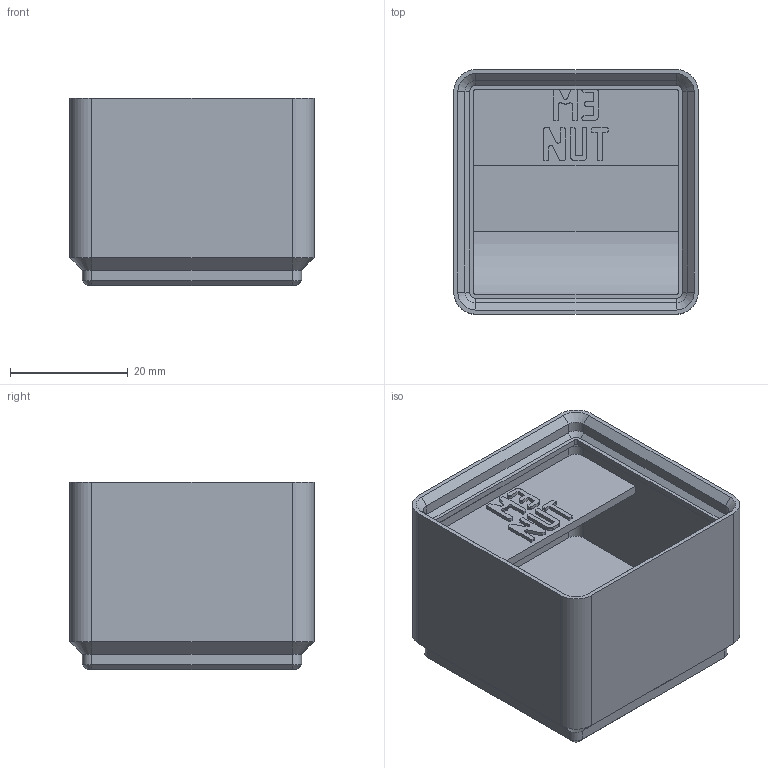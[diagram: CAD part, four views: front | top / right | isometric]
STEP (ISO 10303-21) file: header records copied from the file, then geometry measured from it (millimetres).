
FILE_DESCRIPTION(('Open CASCADE Model'),'2;1');
FILE_NAME('Open CASCADE Shape Model','2026-11-03T10:26:31',('Author'),( 'Open CASCADE'),'Open CASCADE STEP processor 8.0','build123d', 'Unknown');
FILE_SCHEMA(('AUTOMOTIVE_DESIGN { 1 0 10303 214 1 1 1 1 }'));
Length unit declared in the file: millimetre
Products named in the file (1): COMPOUND
Bounding box: 41.5 x 41.5 x 31.8 mm (x, y, z)
Volume: 24287.4 mm3; surface area: 12277.4 mm2
Topology: 1 solids, 1 shells, 546 faces, 1555 edges, 1018 vertices
Faces by surface type: plane 503, cylinder 23, cone 20
Entity records: 36819 total; most frequent: CARTESIAN_POINT 7713, DIRECTION 4693, LINE 3471, VECTOR 3471, ORIENTED_EDGE 3110, PCURVE 3110, DEFINITIONAL_REPRESENTATION 3110, EDGE_CURVE 1555
